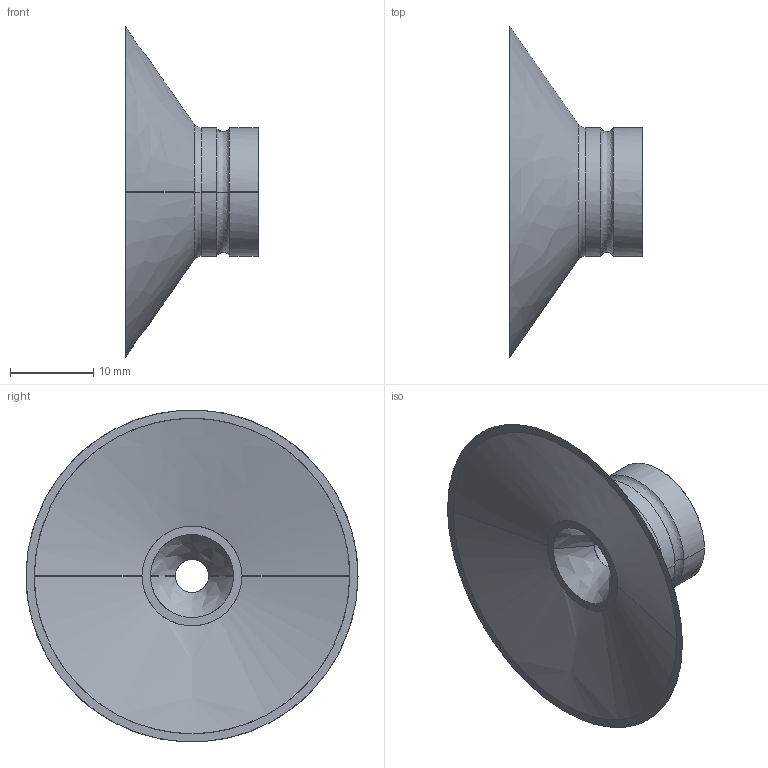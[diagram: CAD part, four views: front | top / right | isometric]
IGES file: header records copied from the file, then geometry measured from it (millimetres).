
Start section: SolidWorks IGES file using analytic representation for surfaces
Global section: file name: C:\Users\STAR081C\Desktop\211276.IGS; native system: SolidWorks 2018; preprocessor: SolidWorks 2018; author: STAR081C; date: 250529.135908; units: millimetre
Bounding box: 16 x 40 x 40 mm (x, y, z)
Surface area: 3538.2 mm2 (no closed solid volume)
Topology: 0 solids, 0 shells, 25 faces, 336 edges, 336 vertices
Faces by surface type: bspline 25
